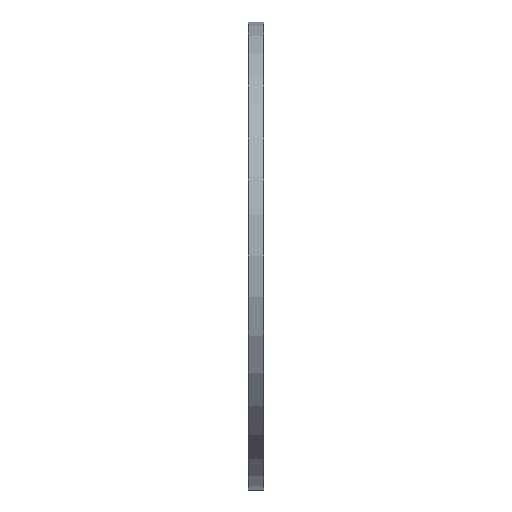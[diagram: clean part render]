
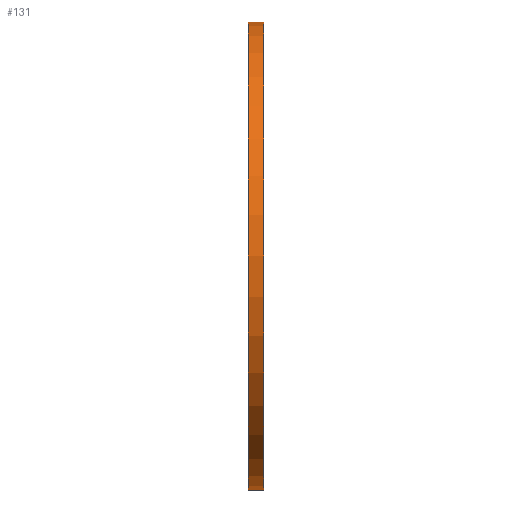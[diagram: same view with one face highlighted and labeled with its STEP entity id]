
A CAD part, left-side view. The second image highlights one B-rep face of the part: STEP entity #131.
In plain terms, the highlighted cylindrical face has radius 222.5 mm (diameter 445 mm), a partial arc.
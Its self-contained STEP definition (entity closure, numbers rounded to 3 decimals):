
#12 = FACE_OUTER_BOUND ( 'NONE', #784, .T. ) ;
#72 = VERTEX_POINT ( 'NONE', #443 ) ;
#130 = LINE ( 'NONE', #683, #579 ) ;
#131 = ADVANCED_FACE ( 'NONE', ( #12 ), #470, .T. ) ;
#190 = DIRECTION ( 'NONE',  ( 0., 0., 1. ) ) ;
#202 = ORIENTED_EDGE ( 'NONE', *, *, #771, .T. ) ;
#214 = VECTOR ( 'NONE', #222, 1000. ) ;
#222 = DIRECTION ( 'NONE',  ( 0., 1., 0. ) ) ;
#224 = DIRECTION ( 'NONE',  ( 0., 1., 0. ) ) ;
#240 = ORIENTED_EDGE ( 'NONE', *, *, #752, .T. ) ;
#344 = CARTESIAN_POINT ( 'NONE',  ( 0., 15., -222.5 ) ) ;
#354 = CARTESIAN_POINT ( 'NONE',  ( 0., 0., -222.5 ) ) ;
#378 = DIRECTION ( 'NONE',  ( 0., 1., 0. ) ) ;
#429 = CARTESIAN_POINT ( 'NONE',  ( 0., 15., 0. ) ) ;
#443 = CARTESIAN_POINT ( 'NONE',  ( 0., 0., 222.5 ) ) ;
#447 = CIRCLE ( 'NONE', #697, 222.5 ) ;
#462 = EDGE_CURVE ( 'NONE', #1089, #1023, #1013, .T. ) ;
#469 = ORIENTED_EDGE ( 'NONE', *, *, #462, .F. ) ;
#470 = CYLINDRICAL_SURFACE ( 'NONE', #904, 222.5 ) ;
#483 = AXIS2_PLACEMENT_3D ( 'NONE', #429, #224, #615 ) ;
#579 = VECTOR ( 'NONE', #1043, 1000. ) ;
#596 = CARTESIAN_POINT ( 'NONE',  ( 0., 0., 0. ) ) ;
#615 = DIRECTION ( 'NONE',  ( 0., 0., 1. ) ) ;
#629 = CARTESIAN_POINT ( 'NONE',  ( 0., 15., 222.5 ) ) ;
#645 = CARTESIAN_POINT ( 'NONE',  ( 0., 38.545, 0. ) ) ;
#665 = LINE ( 'NONE', #778, #214 ) ;
#669 = DIRECTION ( 'NONE',  ( 0., 0., 1. ) ) ;
#683 = CARTESIAN_POINT ( 'NONE',  ( 0., 38.545, 222.5 ) ) ;
#697 = AXIS2_PLACEMENT_3D ( 'NONE', #596, #958, #669 ) ;
#745 = EDGE_CURVE ( 'NONE', #995, #1089, #665, .T. ) ;
#752 = EDGE_CURVE ( 'NONE', #72, #1023, #130, .T. ) ;
#771 = EDGE_CURVE ( 'NONE', #995, #72, #447, .T. ) ;
#778 = CARTESIAN_POINT ( 'NONE',  ( 0., 38.545, -222.5 ) ) ;
#784 = EDGE_LOOP ( 'NONE', ( #1072, #202, #240, #469 ) ) ;
#904 = AXIS2_PLACEMENT_3D ( 'NONE', #645, #378, #190 ) ;
#958 = DIRECTION ( 'NONE',  ( 0., 1., 0. ) ) ;
#995 = VERTEX_POINT ( 'NONE', #354 ) ;
#1013 = CIRCLE ( 'NONE', #483, 222.5 ) ;
#1023 = VERTEX_POINT ( 'NONE', #629 ) ;
#1043 = DIRECTION ( 'NONE',  ( 0., 1., 0. ) ) ;
#1072 = ORIENTED_EDGE ( 'NONE', *, *, #745, .F. ) ;
#1089 = VERTEX_POINT ( 'NONE', #344 ) ;
